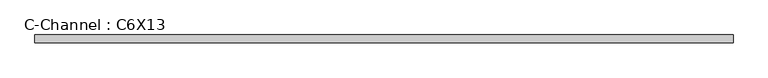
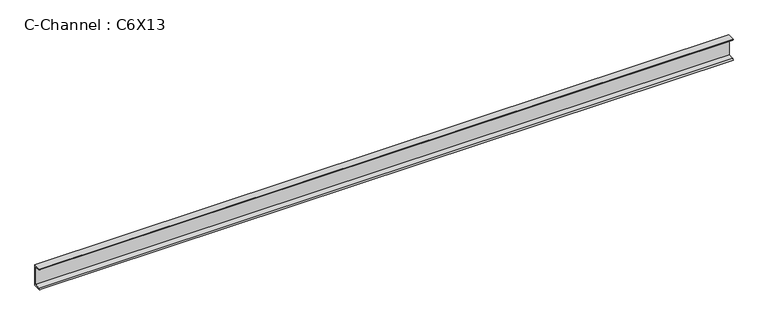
"""IFC4 building model written with IfcOpenShell, lengths in millimetres: beam geometry, C-Channel : C6X13."""

import ifcopenshell
import ifcopenshell.guid

model = None  # the IFC model being written
_history = None  # IfcOwnerHistory: only IFC2X3 demands one
_inside = {}  # id of a spatial element -> (the spatial element, [elements in it])
_under = {}  # id of a project, library or spatial element -> (it, [spatial elements below it])
_declared = {}  # id of a project -> (the project, [libraries it declares])
_typed = {}  # id of a type object -> (the type object, [elements of that type])
_made_of = {}  # id of a material, layer set ... -> (it, [elements and type objects made of it])


def new_model(schema):
    """Start an empty IFC model of exactly this schema.

    Asked for "IFC4X3", IfcOpenShell would pick the latest addendum, in which some entities
    have other attributes; the version numbers below select the first issue.
    IFC2X3 requires an IfcOwnerHistory on every rooted entity: one is made here for all.
    """
    global model, _history
    if schema == "IFC4X3":
        model = ifcopenshell.file(schema_version=(4, 3, 0, 0))
    else:
        model = ifcopenshell.file(schema=schema)
    _inside.clear()
    _under.clear()
    _declared.clear()
    _typed.clear()
    _made_of.clear()
    _history = None
    if model.schema == "IFC2X3":
        org = make("IfcOrganization", Name="unknown")
        user = make(
            "IfcPersonAndOrganization",
            ThePerson=make("IfcPerson", FamilyName="unknown"),
            TheOrganization=org,
        )
        app = make(
            "IfcApplication",
            ApplicationDeveloper=org,
            Version="unknown",
            ApplicationFullName="unknown",
            ApplicationIdentifier="unknown",
        )
        _history = make(
            "IfcOwnerHistory",
            OwningUser=user,
            OwningApplication=app,
            ChangeAction="ADDED",
            CreationDate=0,
        )
    return model


def make(cls, **values):
    """One entity of the class cls with the attributes given. An attribute that is None is left unset."""
    return model.create_entity(
        cls, **{name: value for name, value in values.items() if value is not None}
    )


def rooted(cls, **values):
    """An entity with a GlobalId (a new one), such as an element, a storey or a relation."""
    return make(cls, GlobalId=ifcopenshell.guid.new(), OwnerHistory=_history, **values)


def si_unit(unit_type, name, prefix=None):
    """IfcSIUnit, for example si_unit("LENGTHUNIT", "METRE", prefix="MILLI")."""
    return make("IfcSIUnit", UnitType=unit_type, Prefix=prefix, Name=name)


def assignment(units):
    """IfcUnitAssignment: the units of a project."""
    return None if units is None else make("IfcUnitAssignment", Units=units)


def point(xyz):
    """IfcCartesianPoint."""
    return None if xyz is None else make("IfcCartesianPoint", Coordinates=xyz)


def direction(xyz):
    """IfcDirection."""
    return None if xyz is None else make("IfcDirection", DirectionRatios=xyz)


def frame(location, z_axis=None, x_axis=None):
    """IfcAxis2Placement3D, a coordinate frame: its origin and axes. An axis left out is left unset."""
    return make(
        "IfcAxis2Placement3D",
        Location=point(location),
        Axis=direction(z_axis),
        RefDirection=direction(x_axis),
    )


def frame_2d(location, x_axis=None):
    """IfcAxis2Placement2D, a coordinate frame in the plane: its origin and x axis."""
    return make(
        "IfcAxis2Placement2D", Location=point(location), RefDirection=direction(x_axis)
    )


def origin():
    """The frame at (0, 0, 0) with its axes left unset."""
    return frame((0.0, 0.0, 0.0))


def place(relative_to, where):
    """IfcLocalPlacement: puts the frame where relative to a parent placement (None: the world)."""
    return make(
        "IfcLocalPlacement", PlacementRelTo=relative_to, RelativePlacement=where
    )


def context(
    kind, dimensions, precision=None, world=None, true_north=None, identifier=None
):
    """IfcGeometricRepresentationContext, for example the 3D "Model" context."""
    return make(
        "IfcGeometricRepresentationContext",
        ContextIdentifier=identifier,
        ContextType=kind,
        CoordinateSpaceDimension=dimensions,
        Precision=precision,
        WorldCoordinateSystem=world,
        TrueNorth=true_north,
    )


def project(units=None, contexts=None):
    """IfcProject with its units and contexts."""
    return rooted(
        "IfcProject",
        Name="project",
        RepresentationContexts=contexts,
        UnitsInContext=assignment(units),
    )


def spatial(cls, under=None, at=None, **own):
    """A site, building, storey or space (cls), placed at a placement, below another one or the project."""
    s = rooted(cls, ObjectPlacement=at, **own)
    if under is not None:
        _under.setdefault(under.id(), (under, []))[1].append(s)
    return s


def polyline(points):
    """IfcPolyline through the points."""
    return make("IfcPolyline", Points=[point(p) for p in points])


def circle_curve(where, radius):
    """IfcCircle in the frame where."""
    return make("IfcCircle", Position=where, Radius=radius)


def trimmed(basis, trim1, trim2, sense, master):
    """IfcTrimmedCurve: the piece of a basis curve between two trims."""
    return make(
        "IfcTrimmedCurve",
        BasisCurve=basis,
        Trim1=trim1,
        Trim2=trim2,
        SenseAgreement=sense,
        MasterRepresentation=master,
    )


def segment(curve, same_sense, transition):
    """IfcCompositeCurveSegment."""
    return make(
        "IfcCompositeCurveSegment",
        Transition=transition,
        SameSense=same_sense,
        ParentCurve=curve,
    )


def composite_curve(segments, self_intersect=None):
    """IfcCompositeCurve: segments joined end to end."""
    return make("IfcCompositeCurve", Segments=segments, SelfIntersect=self_intersect)


def outline(outer, holes=None, kind="AREA"):
    """IfcArbitraryClosedProfileDef: a profile drawn as a closed curve; with holes, ...WithVoids."""
    if holes is None:
        return make("IfcArbitraryClosedProfileDef", ProfileType=kind, OuterCurve=outer)
    return make(
        "IfcArbitraryProfileDefWithVoids",
        ProfileType=kind,
        OuterCurve=outer,
        InnerCurves=holes,
    )


def extrude(swept, where, along, depth):
    """IfcExtrudedAreaSolid: the profile swept, set in the frame where, extruded along a direction by depth."""
    return make(
        "IfcExtrudedAreaSolid",
        SweptArea=swept,
        Position=where,
        ExtrudedDirection=direction(along),
        Depth=depth,
    )


def shape(context_of_items, identifier, shape_type, items):
    """IfcShapeRepresentation: the items that make up one representation, for example the "Body"."""
    return make(
        "IfcShapeRepresentation",
        ContextOfItems=context_of_items,
        RepresentationIdentifier=identifier,
        RepresentationType=shape_type,
        Items=items,
    )


def source(mapping_origin, context_of_items, identifier, shape_type, items):
    """IfcRepresentationMap: a shape defined once, which mapped items show again and again."""
    return make(
        "IfcRepresentationMap",
        MappingOrigin=mapping_origin,
        MappedRepresentation=shape(context_of_items, identifier, shape_type, items),
    )


def transform(
    local_origin,
    x_axis=None,
    y_axis=None,
    z_axis=None,
    scale=None,
    scale2=None,
    scale3=None,
    uniform=True,
):
    """IfcCartesianTransformationOperator3D, or its non-uniform kind. x_axis, y_axis, z_axis: its Axis1, 2, 3."""
    if uniform:
        return make(
            "IfcCartesianTransformationOperator3D",
            Axis1=direction(x_axis),
            Axis2=direction(y_axis),
            LocalOrigin=point(local_origin),
            Scale=scale,
            Axis3=direction(z_axis),
        )
    return make(
        "IfcCartesianTransformationOperator3DnonUniform",
        Axis1=direction(x_axis),
        Axis2=direction(y_axis),
        LocalOrigin=point(local_origin),
        Scale=scale,
        Axis3=direction(z_axis),
        Scale2=scale2,
        Scale3=scale3,
    )


def mapped(mapping_source, mapping_target):
    """IfcMappedItem: shows the shape of a source again, moved by a transform."""
    return make(
        "IfcMappedItem", MappingSource=mapping_source, MappingTarget=mapping_target
    )


def made_of(thing, what):
    """Note that an element or type object is made of a material, layer set ...; save() writes the relation."""
    if what is not None:
        _made_of.setdefault(what.id(), (what, []))[1].append(thing)
    return thing


def element(
    cls,
    number,
    at=None,
    inside=None,
    cuts=None,
    type_object=None,
    material=None,
    context=None,
    identifier="Body",
    shape_type=None,
    held_by="IfcProductDefinitionShape",
    body=None,
    shapes=None,
    **own,
):
    """One element of the class cls, such as IfcWall. Its Tag is "e" and its number.

    at: its placement. inside: the storey or other place that contains it. cuts: it is an
    opening in that element (IfcRelVoidsElement). A single representation is given by context,
    identifier, shape_type and body (its items); several are given by shapes. held_by: the class
    of the entity that holds the representations. save() writes the other relations.
    """
    e = rooted(cls, Tag="e%d" % number, ObjectPlacement=at, **own)
    if body is not None:
        shapes = [shape(context, identifier, shape_type, body)]
    if shapes is not None:
        e.Representation = make(held_by, Representations=shapes)
    if inside is not None:
        _inside.setdefault(inside.id(), (inside, []))[1].append(e)
    if cuts is not None:
        rooted(
            "IfcRelVoidsElement", RelatingBuildingElement=cuts, RelatedOpeningElement=e
        )
    if type_object is not None:
        _typed.setdefault(type_object.id(), (type_object, []))[1].append(e)
    return made_of(e, material)


def aggregate(whole, parts):
    """IfcRelAggregates: a whole, such as a stair, and the parts it consists of."""
    return rooted("IfcRelAggregates", RelatingObject=whole, RelatedObjects=parts)


def save(model, path):
    """Write the relations noted so far, then the file.

    IfcRelAggregates (storeys below a building ...), IfcRelContainedInSpatialStructure (elements
    in a storey), IfcRelDefinesByType, IfcRelAssociatesMaterial and IfcRelDeclares: one each for
    every whole, place, type object, material and project.
    """
    for whole, parts in _under.values():
        aggregate(whole, parts)
    for where, things in _inside.values():
        rooted(
            "IfcRelContainedInSpatialStructure",
            RelatedElements=things,
            RelatingStructure=where,
        )
    for kind, things in _typed.values():
        rooted("IfcRelDefinesByType", RelatedObjects=things, RelatingType=kind)
    for what, things in _made_of.values():
        rooted("IfcRelAssociatesMaterial", RelatedObjects=things, RelatingMaterial=what)
    for by, libraries in _declared.values():
        rooted("IfcRelDeclares", RelatingContext=by, RelatedDefinitions=libraries)
    model.write(path)


def c_channel_c6x13_5322debb(model_context):
    return source(origin(), model_context, "Body", "SweptSolid", [
        extrude(outline(composite_curve([segment(polyline([(13.0556, 76.2), (13.0556, -76.2), (-41.8084, -76.2)]), True, "CONTINUOUS"), segment(trimmed(circle_curve(frame_2d((-33.0962, -76.2)), 8.7122), [point((-41.8084, -76.2))], [point((-33.0962, -67.4878))], False, "CARTESIAN"), True, "CONTINUOUS"), segment(polyline([(-33.0962, -67.4878), (1.9558, -61.9361086), (1.9558, 61.9361086), (-33.0962, 67.4878)]), True, "CONTINUOUS"), segment(trimmed(circle_curve(frame_2d((-33.0962, 76.2)), 8.7122), [point((-33.0962, 67.4878))], [point((-41.8084, 76.2))], False, "CARTESIAN"), True, "CONTINUOUS"), segment(polyline([(-41.8084, 76.2), (13.0556, 76.2)]), True, "CONTINUOUS")], self_intersect=False)), frame((-2397.4982055, 0.0, 0.0), z_axis=(1.0, 0.0, 0.0), x_axis=(0.0, 1.0, 0.0)), (0.0, 0.0, 1.0), 4813.1688559),
    ])


if __name__ == "__main__":
    model = new_model("IFC4")
    model_context = context("Model", 3, world=origin())
    ifc_project = project(units=[si_unit("LENGTHUNIT", "METRE", prefix="MILLI")], contexts=[model_context])
    site = spatial("IfcSite", under=ifc_project)
    building = spatial("IfcBuilding", under=site)
    placement = place(None, origin())
    c_channel_c6x13_shape = c_channel_c6x13_5322debb(model_context)
    element("IfcBeam", 1, ObjectType="C-Channel : C6X13", at=placement, inside=building, context=model_context, shape_type="MappedRepresentation", body=[
        mapped(c_channel_c6x13_shape, transform((0.0, 0.0, 0.0), x_axis=(1.0, 0.0, 0.0), y_axis=(0.0, 1.0, 0.0), z_axis=(0.0, 0.0, 1.0))),
    ])
    save(model, "model.ifc")
